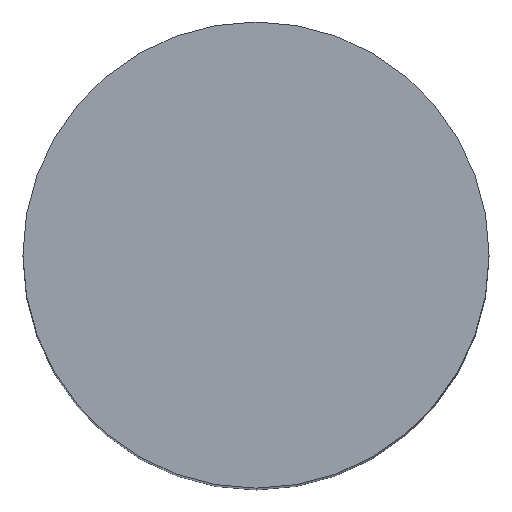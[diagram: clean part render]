
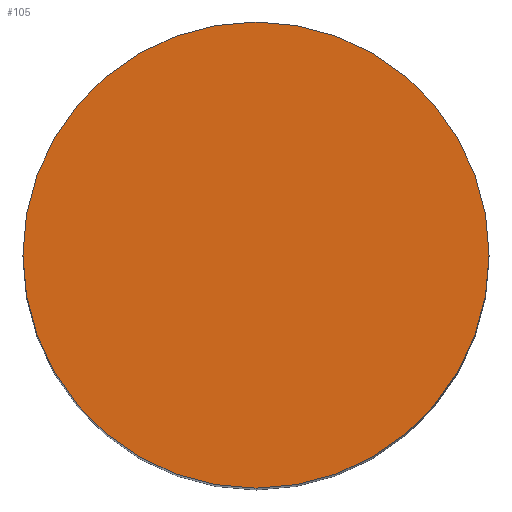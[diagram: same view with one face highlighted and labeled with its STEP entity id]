
A CAD part, top view. The second image highlights one B-rep face of the part: STEP entity #105.
In plain terms, the highlighted planar face has unit normal (0, 0, 1).
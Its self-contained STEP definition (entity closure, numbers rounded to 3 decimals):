
#21 = EDGE_CURVE('',#22,#22,#24,.T.);
#22 = VERTEX_POINT('',#23);
#23 = CARTESIAN_POINT('',(-464.,-231.913,30.));
#24 = SURFACE_CURVE('',#25,(#30,#42),.PCURVE_S1.);
#25 = CIRCLE('',#26,6.);
#26 = AXIS2_PLACEMENT_3D('',#27,#28,#29);
#27 = CARTESIAN_POINT('',(-470.,-231.913,30.));
#28 = DIRECTION('',(0.,0.,1.));
#29 = DIRECTION('',(1.,0.,-0.));
#30 = PCURVE('',#31,#36);
#31 = CYLINDRICAL_SURFACE('',#32,6.);
#32 = AXIS2_PLACEMENT_3D('',#33,#34,#35);
#33 = CARTESIAN_POINT('',(-470.,-231.913,3.));
#34 = DIRECTION('',(0.,0.,1.));
#35 = DIRECTION('',(1.,0.,-0.));
#36 = DEFINITIONAL_REPRESENTATION('',(#37),#41);
#37 = LINE('',#38,#39);
#38 = CARTESIAN_POINT('',(0.,27.));
#39 = VECTOR('',#40,1.);
#40 = DIRECTION('',(1.,0.));
#41 = ( GEOMETRIC_REPRESENTATION_CONTEXT(2) 
PARAMETRIC_REPRESENTATION_CONTEXT() REPRESENTATION_CONTEXT('2D SPACE',''
  ) );
#42 = PCURVE('',#43,#48);
#43 = PLANE('',#44);
#44 = AXIS2_PLACEMENT_3D('',#45,#46,#47);
#45 = CARTESIAN_POINT('',(-470.,-231.913,30.));
#46 = DIRECTION('',(0.,0.,1.));
#47 = DIRECTION('',(1.,0.,-0.));
#48 = DEFINITIONAL_REPRESENTATION('',(#49),#53);
#49 = CIRCLE('',#50,6.);
#50 = AXIS2_PLACEMENT_2D('',#51,#52);
#51 = CARTESIAN_POINT('',(0.,0.));
#52 = DIRECTION('',(1.,0.));
#53 = ( GEOMETRIC_REPRESENTATION_CONTEXT(2) 
PARAMETRIC_REPRESENTATION_CONTEXT() REPRESENTATION_CONTEXT('2D SPACE',''
  ) );
#105 = ADVANCED_FACE('',(#106),#43,.T.);
#106 = FACE_BOUND('',#107,.T.);
#107 = EDGE_LOOP('',(#108));
#108 = ORIENTED_EDGE('',*,*,#21,.T.);
